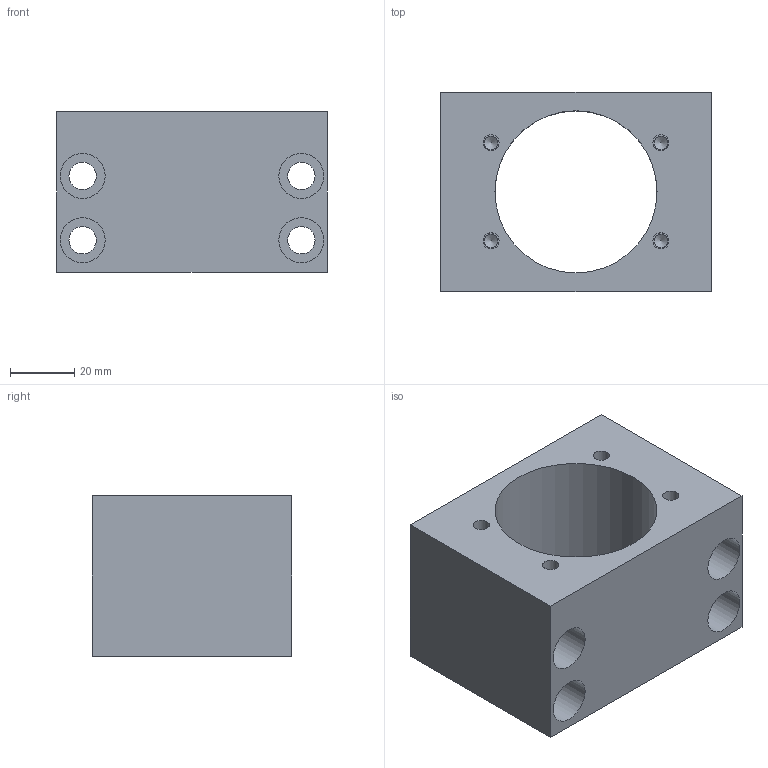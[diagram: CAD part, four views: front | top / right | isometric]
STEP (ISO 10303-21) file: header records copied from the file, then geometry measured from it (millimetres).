
FILE_DESCRIPTION(/* description */ (''),/* implementation_level */ '2;1');
FILE_NAME(/* name */ 'NH25D.stp',/* time_stamp */ '2017-01-05T16:07:54+08:00',/* author */ (''),/* organization */ (''),/* preprocessor_version */ 'ST-DEVELOPER v15',/* originating_system */ 'SIEMENS PLM Software NX 8.5',/* authorisation */ '');
FILE_SCHEMA (('AUTOMOTIVE_DESIGN { 1 0 10303 214 3 1 1 1 }'));
Length unit declared in the file: millimetre
Products named in the file (1): Admi1CF0E4A5a653
Bounding box: 84 x 62 x 50 mm (x, y, z)
Volume: 140457.1 mm3; surface area: 36830.8 mm2
Topology: 1 solids, 1 shells, 43 faces, 92 edges, 63 vertices
Faces by surface type: cylinder 21, plane 18, cone 4
Full cylindrical faces by diameter (mm): 4.2 x4, 5 x4, 8.5 x4, 10 x4, 14 x4, 50.4 x1
Entity records: 1014 total; most frequent: DIRECTION 184, CARTESIAN_POINT 152, ORIENTED_EDGE 108, FACE_BOUND 92, EDGE_LOOP 90, AXIS2_PLACEMENT_3D 86, VERTEX_POINT 54, EDGE_CURVE 54
